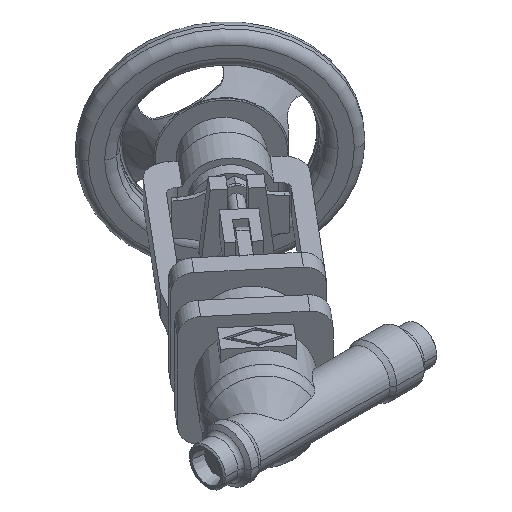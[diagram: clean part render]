
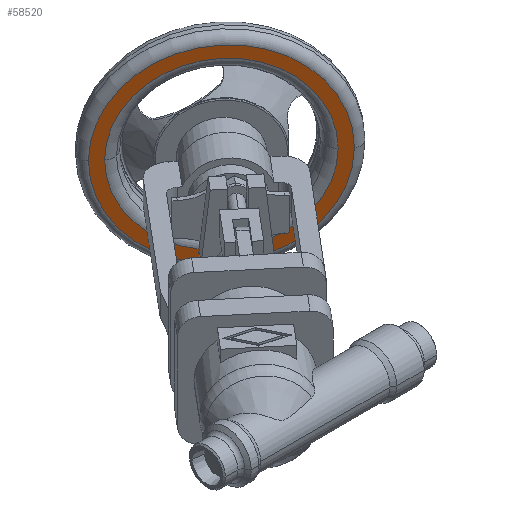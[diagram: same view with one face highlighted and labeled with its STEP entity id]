
A CAD part, isometric view. The second image highlights one B-rep face of the part: STEP entity #58520.
In plain terms, the highlighted planar face has unit normal (-0.643, -0.766, 0).
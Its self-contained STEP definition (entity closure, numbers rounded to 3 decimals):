
#57870=CARTESIAN_POINT('',(213.904,123.756,0.));
#57880=VERTEX_POINT('',#57870);
#57910=CARTESIAN_POINT('',(169.857,160.716,0.));
#57920=DIRECTION('',(0.643,0.766,0.));
#57930=DIRECTION('',(-0.766,0.643,
0.));
#57940=AXIS2_PLACEMENT_3D('',#57910,#57920,#57930);
#57950=CIRCLE('',#57940,57.5);
#57960=CARTESIAN_POINT('',(169.857,160.716,57.5));
#57970=VERTEX_POINT('',#57960);
#57980=EDGE_CURVE('',#57970,#57880,#57950,.T.);
#58000=CARTESIAN_POINT('',(125.809,197.676,0.));
#58010=VERTEX_POINT('',#58000);
#58020=EDGE_CURVE('',#58010,#57970,#57950,.T.);
#58220=CARTESIAN_POINT('',(128.49,195.427,
0.));
#58230=DIRECTION('',(-0.643,-0.766,0.));
#58240=DIRECTION('',(0.766,-0.643,
0.));
#58250=AXIS2_PLACEMENT_3D('',#58220,#58230,#58240);
#58260=PLANE('',#58250);
#58270=ORIENTED_EDGE('',*,*,#57980,.F.);
#58280=EDGE_CURVE('',#57880,#58010,#57950,.T.);
#58290=ORIENTED_EDGE('',*,*,#58280,.F.);
#58300=ORIENTED_EDGE('',*,*,#58020,.F.);
#58310=EDGE_LOOP('',(#58300,#58290,#58270));
#58320=FACE_OUTER_BOUND('',#58310,.T.);
#58330=CARTESIAN_POINT('',(169.857,160.716,0.));
#58340=DIRECTION('',(0.643,0.766,0.));
#58350=DIRECTION('',(-0.766,0.643,
0.));
#58360=AXIS2_PLACEMENT_3D('',#58330,#58340,#58350);
#58370=CIRCLE('',#58360,50.5);
#58380=CARTESIAN_POINT('',(131.172,193.177,0.));
#58390=VERTEX_POINT('',#58380);
#58400=CARTESIAN_POINT('',(208.542,128.255,0.));
#58410=VERTEX_POINT('',#58400);
#58420=EDGE_CURVE('',#58390,#58410,#58370,.T.);
#58430=ORIENTED_EDGE('',*,*,#58420,.T.);
#58440=CARTESIAN_POINT('',(169.857,160.716,-50.5));
#58450=VERTEX_POINT('',#58440);
#58460=EDGE_CURVE('',#58450,#58390,#58370,.T.);
#58470=ORIENTED_EDGE('',*,*,#58460,.T.);
#58480=EDGE_CURVE('',#58410,#58450,#58370,.T.);
#58490=ORIENTED_EDGE('',*,*,#58480,.T.);
#58500=EDGE_LOOP('',(#58490,#58470,#58430));
#58510=FACE_BOUND('',#58500,.T.);
#58520=ADVANCED_FACE('',(#58320,#58510),#58260,.T.);
